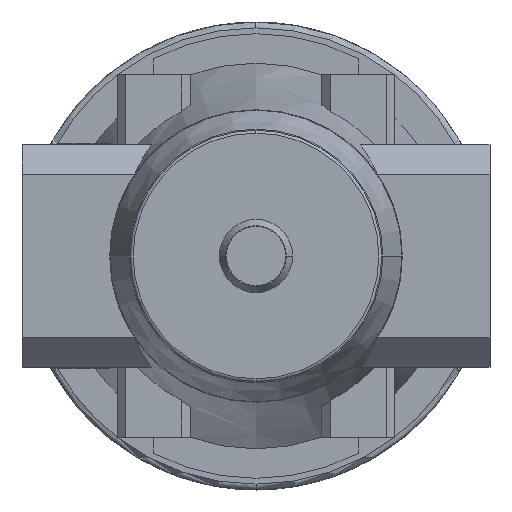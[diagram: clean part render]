
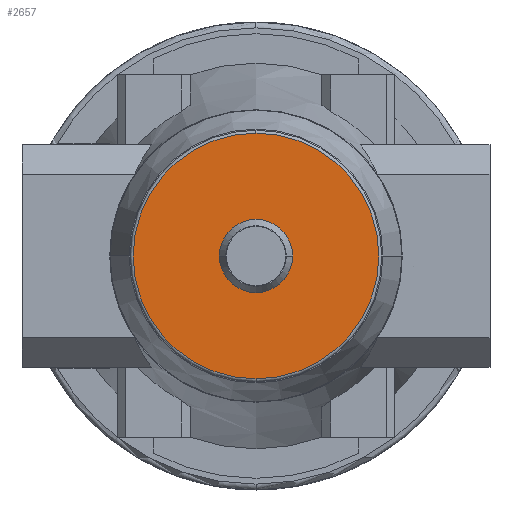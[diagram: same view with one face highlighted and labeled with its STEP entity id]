
A CAD part, front view. The second image highlights one B-rep face of the part: STEP entity #2657.
In plain terms, the highlighted planar face has unit normal (0, -1, 0).
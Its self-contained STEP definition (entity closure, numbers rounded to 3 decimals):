
#2015 = EDGE_CURVE( '', #2307, #2539, #5356, .T. );
#2131 = VERTEX_POINT( '', #5483 );
#2307 = VERTEX_POINT( '', #5674 );
#2377 = EDGE_CURVE( '', #2131, #4199, #5751, .T. );
#2539 = VERTEX_POINT( '', #5932 );
#2657 = ADVANCED_FACE( '', ( #6057, #6058 ), #6059, .T. );
#2757 = EDGE_CURVE( '', #4115, #2307, #6167, .T. );
#3249 = EDGE_CURVE( '', #2539, #4115, #6722, .T. );
#3299 = EDGE_CURVE( '', #4199, #2131, #6777, .T. );
#4115 = VERTEX_POINT( '', #7690 );
#4199 = VERTEX_POINT( '', #7786 );
#5356 = CIRCLE( '', #9358, 42. );
#5483 = CARTESIAN_POINT( '', ( -12.5, -89., 0. ) );
#5674 = CARTESIAN_POINT( '', ( 0., -89., -42. ) );
#5751 = CIRCLE( '', #9957, 12.5 );
#5932 = CARTESIAN_POINT( '', ( -42., -89., 0. ) );
#6057 = FACE_OUTER_BOUND( '', #10436, .T. );
#6058 = FACE_BOUND( '', #10437, .T. );
#6059 = PLANE( '', #10438 );
#6167 = CIRCLE( '', #10597, 42. );
#6722 = CIRCLE( '', #11454, 42. );
#6777 = CIRCLE( '', #11526, 12.5 );
#7690 = CARTESIAN_POINT( '', ( 0., -89., 42. ) );
#7786 = CARTESIAN_POINT( '', ( 12.5, -89., 0. ) );
#9358 = AXIS2_PLACEMENT_3D( '', #14818, #14819, #14820 );
#9957 = AXIS2_PLACEMENT_3D( '', #15234, #15235, #15236 );
#10436 = EDGE_LOOP( '', ( #15552, #15553, #15554 ) );
#10437 = EDGE_LOOP( '', ( #15555, #15556 ) );
#10438 = AXIS2_PLACEMENT_3D( '', #15557, #15558, #15559 );
#10597 = AXIS2_PLACEMENT_3D( '', #15671, #15672, #15673 );
#11454 = AXIS2_PLACEMENT_3D( '', #16383, #16384, #16385 );
#11526 = AXIS2_PLACEMENT_3D( '', #16440, #16441, #16442 );
#14818 = CARTESIAN_POINT( '', ( 0., -89., 0. ) );
#14819 = DIRECTION( '', ( 0., 1., 0. ) );
#14820 = DIRECTION( '', ( -1., 0., 0. ) );
#15234 = CARTESIAN_POINT( '', ( 0., -89., 0. ) );
#15235 = DIRECTION( '', ( 0., 1., 0. ) );
#15236 = DIRECTION( '', ( -1., 0., 0. ) );
#15552 = ORIENTED_EDGE( '', *, *, #3249, .F. );
#15553 = ORIENTED_EDGE( '', *, *, #2015, .F. );
#15554 = ORIENTED_EDGE( '', *, *, #2757, .F. );
#15555 = ORIENTED_EDGE( '', *, *, #2377, .T. );
#15556 = ORIENTED_EDGE( '', *, *, #3299, .T. );
#15557 = CARTESIAN_POINT( '', ( -27.25, -89., 0. ) );
#15558 = DIRECTION( '', ( 0., -1., 0. ) );
#15559 = DIRECTION( '', ( 1., 0., 0. ) );
#15671 = CARTESIAN_POINT( '', ( 0., -89., 0. ) );
#15672 = DIRECTION( '', ( 0., 1., 0. ) );
#15673 = DIRECTION( '', ( -1., 0., 0. ) );
#16383 = CARTESIAN_POINT( '', ( 0., -89., 0. ) );
#16384 = DIRECTION( '', ( 0., 1., 0. ) );
#16385 = DIRECTION( '', ( -1., 0., 0. ) );
#16440 = CARTESIAN_POINT( '', ( 0., -89., 0. ) );
#16441 = DIRECTION( '', ( 0., 1., 0. ) );
#16442 = DIRECTION( '', ( -1., 0., 0. ) );
